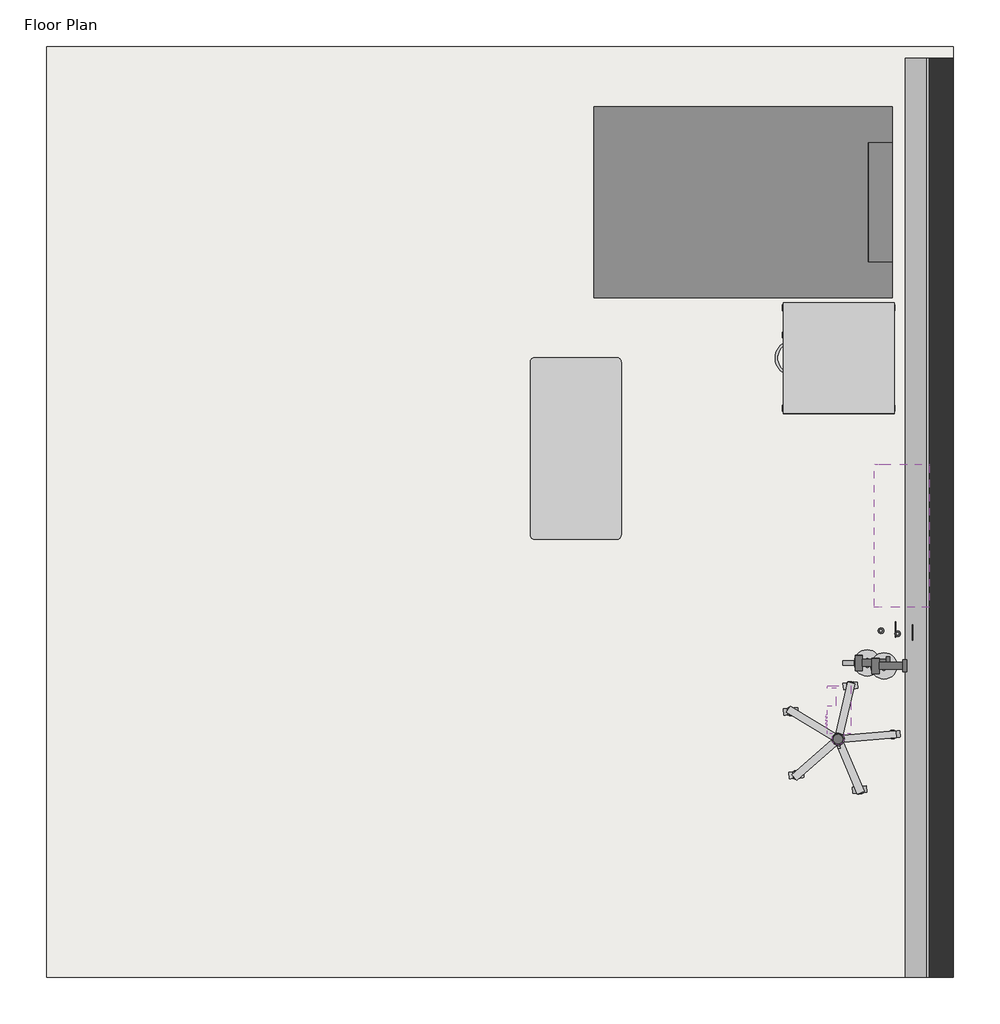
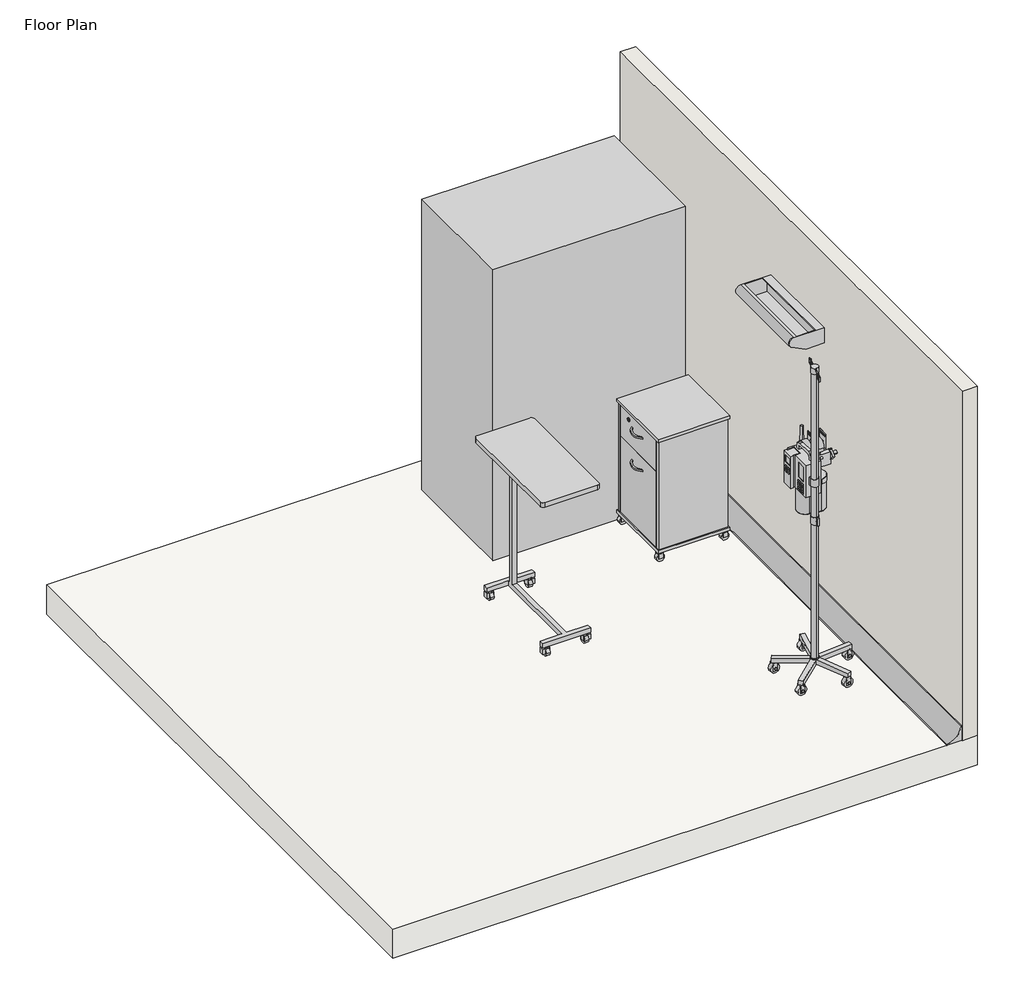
# One storey, incomplete: 9 proxies, 2 slabs, 1 furniture element, 1 light fixture, 1 wall.
"""IFC4 building model written with IfcOpenShell, lengths in millimetres."""

from ifc_helpers import new_model, si_unit, point, frame, frame_2d, origin, place, context, project, spatial, polyline, circle_curve, trimmed, segment, composite_curve, outline, extrude, faceted_brep, transform, mapped, element, save
from components import generic_models_eee01dc3, generic_models_69a9413b, generic_models_23b3e7a1, generic_models_51914271, generic_models_60647dcf, generic_models_1c4e6ef4, furniture_785aeefc, type_1_dfacdb5c

model = new_model("IFC4")

# Units and contexts
model_context = context("Model", 3, world=origin())
ifc_project = project(units=[si_unit("LENGTHUNIT", "METRE", prefix="MILLI")], contexts=[model_context])

# Site, building, storey
site = spatial("IfcSite", under=ifc_project)
building = spatial("IfcBuilding", under=site)
storey = spatial("IfcBuildingStorey", under=building, Name="Floor Plan", Elevation=0.0)

# Proxies
placement = place(None, origin())
element("IfcBuildingElementProxy", 1, Name="Wall Sweeps", at=placement, inside=storey, context=model_context, shape_type="SweptSolid", body=[
    extrude(outline(composite_curve([segment(polyline([(0.0, 6305.0), (100.0, 6305.0), (100.0, 6295.0)]), True, "CONTINUOUS"), segment(trimmed(circle_curve(frame_2d((100.0, 6205.0)), 90.0), [point((100.0, 6295.0))], [point((10.0, 6205.0))], True, "CARTESIAN"), True, "CONTINUOUS"), segment(polyline([(10.0, 6205.0), (0.0, 6205.0), (0.0, 6305.0)]), True, "CONTINUOUS")], self_intersect=False)), frame((0.0, 1607.5, 0.0), z_axis=(0.0, 1.0, 0.0), x_axis=(0.0, 0.0, 1.0)), (0.0, 0.0, 1.0), 3850.0),
])
generic_models_shape = generic_models_eee01dc3(model_context)
element("IfcBuildingElementProxy", 2, Name="BIMHealth-Table_Overbed-LOD2A-v1 : BIMHealth-Table_Overbed-LOD2A-v1", ObjectType="BIMHealth-Table_Overbed-LOD2A-v1 : BIMHealth-Table_Overbed-LOD2A-v1", at=placement, inside=storey, context=model_context, shape_type="MappedRepresentation", body=[
    mapped(generic_models_shape, transform((5013.7834569, 4204.5, 0.0), x_axis=(0.0, -1.0000000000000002, 0.0), y_axis=(1.0000000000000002, 0.0, 0.0), z_axis=(0.0, 0.0, 1.0))),
])
generic_models_2_shape = generic_models_69a9413b(model_context)
element("IfcBuildingElementProxy", 3, Name="BIMHealth-Drip_Stand-LOD2A-v1 : BIMHealth-Drip_Stand-LOD2A-v1", ObjectType="BIMHealth-Drip_Stand-LOD2A-v1 : BIMHealth-Drip_Stand-LOD2A-v1", at=placement, inside=storey, context=model_context, shape_type="MappedRepresentation", body=[
    mapped(generic_models_2_shape, transform((5923.0037354, 2605.3435148, 0.0), x_axis=(-0.08715574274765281, 0.9961946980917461, 0.0), y_axis=(-0.9961946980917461, -0.08715574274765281, 0.0), z_axis=(0.0, 0.0, 1.0))),
])
generic_models_3_shape = generic_models_23b3e7a1(model_context)
element("IfcBuildingElementProxy", 4, Name="BIMHealth-IV_Pump-LOD2A-v1 : BIMHealth-IV_Pump-LOD2A-v1", ObjectType="BIMHealth-IV_Pump-LOD2A-v1 : BIMHealth-IV_Pump-LOD2A-v1", at=placement, inside=storey, context=model_context, shape_type="MappedRepresentation", body=[
    mapped(generic_models_3_shape, transform((5977.0111903, 2628.228362, 0.0), x_axis=(0.0, 1.0000000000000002, 0.0), y_axis=(-1.0000000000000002, 0.0, 0.0), z_axis=(0.0, 0.0, 1.0))),
])
generic_models_4_shape = generic_models_51914271(model_context)
element("IfcBuildingElementProxy", 5, Name="BIMHealth-Locker_Bedside-LOD2A-v1 : BIMHealth-Locker_Bedside-LOD2A-v1", ObjectType="BIMHealth-Locker_Bedside-LOD2A-v1 : BIMHealth-Locker_Bedside-LOD2A-v1", at=placement, inside=storey, context=model_context, shape_type="MappedRepresentation", body=[
    mapped(generic_models_4_shape, transform((6150.0, 4477.5, 0.0), x_axis=(0.0, -1.0000000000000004, 0.0), y_axis=(1.0000000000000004, 0.0, 0.0), z_axis=(0.0, 0.0, 1.0))),
])
generic_models_5_shape = generic_models_60647dcf(model_context)
element("IfcBuildingElementProxy", 6, Name="BIMHealth-Flowmeter_Oxygen-LOD2A-v1 : BIMHealth-Flowmeter_Oxygen-LOD2A-v1", ObjectType="BIMHealth-Flowmeter_Oxygen-LOD2A-v1 : BIMHealth-Flowmeter_Oxygen-LOD2A-v1", at=placement, inside=storey, context=model_context, shape_type="MappedRepresentation", body=[
    mapped(generic_models_5_shape, transform((6172.1875, 3047.6875, 0.0), x_axis=(0.0, 1.0000000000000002, 0.0), y_axis=(-1.0000000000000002, 0.0, 0.0), z_axis=(0.0, 0.0, 1.0))),
])
element("IfcBuildingElementProxy", 7, Name="BIMHealth-Flowmeter_Oxygen-LOD2A-v1 : BIMHealth-Flowmeter_Oxygen-LOD2A-v1", ObjectType="BIMHealth-Flowmeter_Oxygen-LOD2A-v1 : BIMHealth-Flowmeter_Oxygen-LOD2A-v1", at=placement, inside=storey, context=model_context, shape_type="MappedRepresentation", body=[
    mapped(generic_models_5_shape, transform((6102.2464733, 3060.1875, 0.0), x_axis=(0.0, 1.0000000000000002, 0.0), y_axis=(-1.0000000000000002, 0.0, 0.0), z_axis=(0.0, 0.0, 1.0))),
])
generic_models_6_shape = generic_models_1c4e6ef4(model_context)
element("IfcBuildingElementProxy", 8, Name="BIMHealth-Flowmeter_Suction-LOD2A-v1 : BIMHealth-Flowmeter_Suction-LOD2A-v1", ObjectType="BIMHealth-Flowmeter_Suction-LOD2A-v1 : BIMHealth-Flowmeter_Suction-LOD2A-v1", at=placement, inside=storey, context=model_context, shape_type="MappedRepresentation", body=[
    mapped(generic_models_6_shape, transform((6095.0, 2912.5, 0.0), x_axis=(0.0, -1.0, 0.0), y_axis=(1.0, 0.0, 0.0), z_axis=(0.0, 0.0, 1.0))),
])
element("IfcBuildingElementProxy", 9, Name="BIMHealth-Flowmeter_Suction-LOD2A-v1 : BIMHealth-Flowmeter_Suction-LOD2A-v1", ObjectType="BIMHealth-Flowmeter_Suction-LOD2A-v1 : BIMHealth-Flowmeter_Suction-LOD2A-v1", at=placement, inside=storey, context=model_context, shape_type="MappedRepresentation", body=[
    mapped(generic_models_6_shape, transform((6025.0589733, 2925.0, 0.0), x_axis=(0.0, -1.0, 0.0), y_axis=(1.0, 0.0, 0.0), z_axis=(0.0, 0.0, 1.0))),
])

# Furniture
furniture_shape = furniture_785aeefc(model_context)
element("IfcFurniture", 10, ObjectType="BIMHealth-Chair_High_Back-LOD2A-v1 : BIMHealth-Chair_High_Back-LOD2A-v1", at=placement, inside=storey, context=model_context, shape_type="MappedRepresentation", body=[
    mapped(furniture_shape, transform((6149.2819597, 5150.0, 0.0), x_axis=(0.0, -1.0, 0.0), y_axis=(1.0, 0.0, 0.0), z_axis=(0.0, 0.0, 1.0))),
])

# Light fixture
type_1_shape = type_1_dfacdb5c(model_context)
element("IfcLightFixture", 11, ObjectType="BIMHealth-Lighting-Bed_Luminaire-LOD2A-v1 : Type 1", at=placement, inside=storey, context=model_context, shape_type="MappedRepresentation", body=[
    mapped(type_1_shape, transform((6355.0, 3332.5, -7.5), x_axis=(0.0, 1.0, 0.0), y_axis=(-1.0, 0.0, 0.0), z_axis=(0.0, 0.0, 1.0))),
])

# Slabs
element("IfcSlab", 12, ObjectType="BIMHealth - Generic Floor", at=placement, inside=storey, context=model_context, shape_type="SweptSolid", body=[
    extrude(outline(polyline([(6405.0, 5507.5), (6405.0, 1607.5), (2605.0, 1607.5), (2605.0, 5507.5), (6405.0, 5507.5)])), frame((0.0, 0.0, -200.0), z_axis=(0.0, 0.0, 1.0), x_axis=(1.0, 0.0, 0.0)), (0.0, 0.0, 1.0), 200.0),
])
element("IfcSlab", 13, ObjectType="BIMHealth - Generic Floor", at=placement, inside=storey, context=model_context, shape_type="SweptSolid", body=[
    extrude(outline(polyline([(6405.0, 5507.5), (6405.0, 1607.5), (2605.0, 1607.5), (2605.0, 5507.5), (6405.0, 5507.5)])), frame((0.0, 0.0, -200.0), z_axis=(0.0, 0.0, 1.0), x_axis=(1.0, 0.0, 0.0)), (0.0, 0.0, 1.0), 200.0),
])

# Wall
element("IfcWall", 14, ObjectType="BIMHealth - Generic Wall", at=placement, inside=storey, context=model_context, shape_type="Brep", body=[
    faceted_brep([(6405.0, 1607.5, 0.0), (6405.0, 5457.5, 0.0), (6405.0, 5457.5, 2400.0), (6405.0, 1607.5, 2400.0), (6305.0, 1607.5, 0.0), (6305.0, 1607.5, 100.0), (6305.0, 1607.5, 2400.0), (6305.0, 5457.5, 2400.0), (6305.0, 5457.5, 100.0), (6305.0, 5457.5, 0.0)], [[[0, 1, 2, 3]], [[4, 5, 6, 7, 8, 9]], [[1, 0, 4, 9]], [[2, 1, 9, 8, 7]], [[3, 2, 7, 6]], [[0, 3, 6, 5, 4]]]),
])

save(model, "model.ifc")
